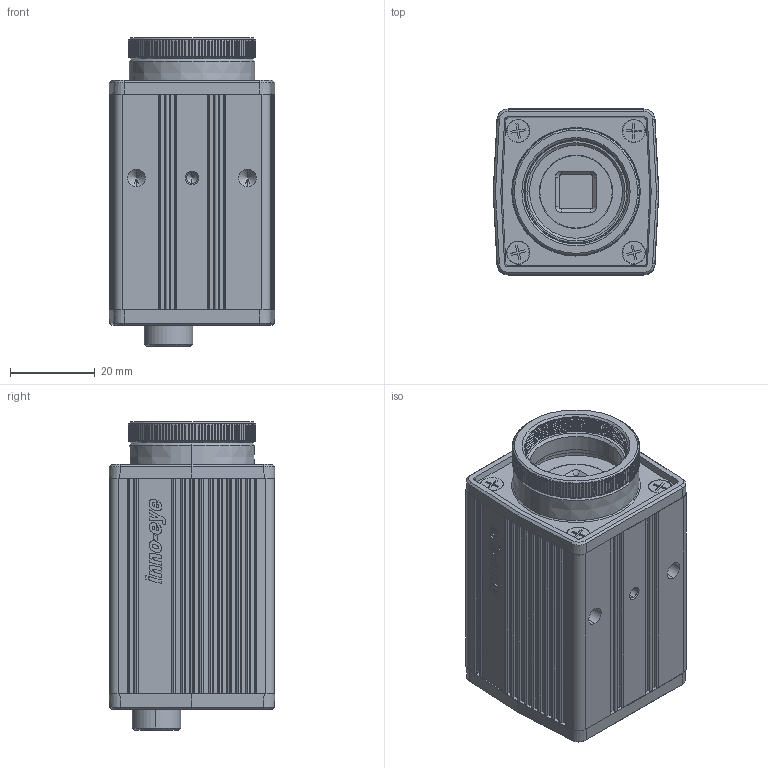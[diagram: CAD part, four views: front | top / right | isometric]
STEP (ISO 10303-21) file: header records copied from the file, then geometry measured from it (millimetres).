
FILE_DESCRIPTION (( 'STEP AP203' ), '1' );
FILE_NAME ('C-MOUNT (OV)-16.08.05.STEP', '2016-08-08T11:29:13', ( '' ), ( '' ), 'SwSTEP 2.0', 'SolidWorks 2008', '' );
FILE_SCHEMA (( 'CONFIG_CONTROL_DESIGN' ));
Length unit declared in the file: millimetre
Products named in the file (1): C-MOUNT (OV)-16.08.05
Bounding box: 39.2 x 39.2 x 72.96 mm (x, y, z)
Volume: 83935.8 mm3; surface area: 26508.9 mm2
Topology: 24 solids, 24 shells, 1911 faces, 5325 edges, 3505 vertices
Faces by surface type: plane 1039, cylinder 651, bspline 120, cone 101
Entity records: 65046 total; most frequent: CARTESIAN_POINT 16558, ORIENTED_EDGE 10638, DIRECTION 9477, EDGE_CURVE 5319, VERTEX_POINT 3505, VECTOR 3177, LINE 3177, AXIS2_PLACEMENT_3D 3150
